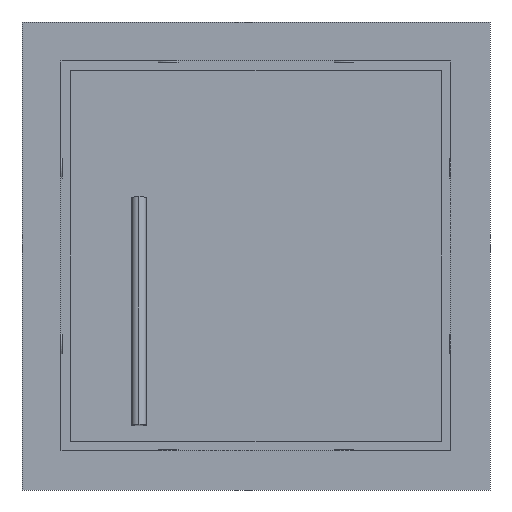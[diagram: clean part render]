
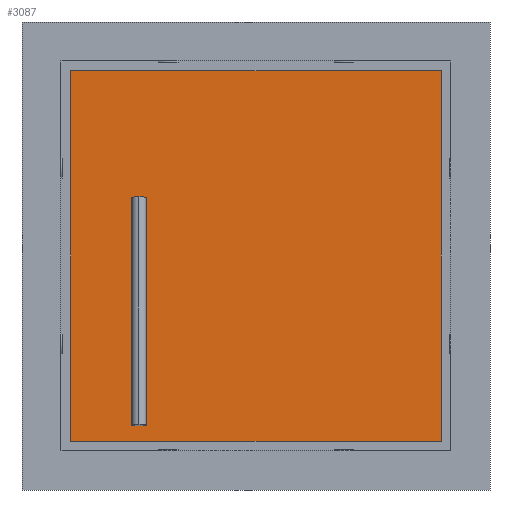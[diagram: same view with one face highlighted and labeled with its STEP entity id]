
A CAD part, front view. The second image highlights one B-rep face of the part: STEP entity #3087.
In plain terms, the highlighted planar face has unit normal (0, -1, 0).
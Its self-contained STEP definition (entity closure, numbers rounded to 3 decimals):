
#2818=DIRECTION('',(0.,0.,-1.));
#2819=VECTOR('',#2818,648.);
#2820=CARTESIAN_POINT('',(324.,79.,315.));
#2821=LINE('',#2820,#2819);
#2826=DIRECTION('',(-1.,0.,0.));
#2827=VECTOR('',#2826,648.);
#2828=CARTESIAN_POINT('',(324.,79.,-333.));
#2829=LINE('',#2828,#2827);
#2834=DIRECTION('',(0.,0.,1.));
#2835=VECTOR('',#2834,648.);
#2836=CARTESIAN_POINT('',(-324.,79.,-333.));
#2837=LINE('',#2836,#2835);
#2842=DIRECTION('',(1.,0.,0.));
#2843=VECTOR('',#2842,648.);
#2844=CARTESIAN_POINT('',(-324.,79.,315.));
#2845=LINE('',#2844,#2843);
#2917=CARTESIAN_POINT('',(324.,79.,315.));
#2918=CARTESIAN_POINT('',(324.,79.,-333.));
#2919=VERTEX_POINT('',#2917);
#2920=VERTEX_POINT('',#2918);
#2921=CARTESIAN_POINT('',(-324.,79.,-333.));
#2922=VERTEX_POINT('',#2921);
#2923=CARTESIAN_POINT('',(-324.,79.,315.));
#2924=VERTEX_POINT('',#2923);
#3073=CARTESIAN_POINT('',(0.,79.,0.));
#3074=DIRECTION('',(0.,1.,0.));
#3075=DIRECTION('',(0.,0.,-1.));
#3076=AXIS2_PLACEMENT_3D('',#3073,#3074,#3075);
#3077=PLANE('',#3076);
#3078=ORIENTED_EDGE('',*,*,#3063,.T.);
#3080=ORIENTED_EDGE('',*,*,#3079,.T.);
#3082=ORIENTED_EDGE('',*,*,#3081,.T.);
#3084=ORIENTED_EDGE('',*,*,#3083,.T.);
#3085=EDGE_LOOP('',(#3078,#3080,#3082,#3084));
#3086=FACE_OUTER_BOUND('',#3085,.F.);
#3063=EDGE_CURVE('',#2919,#2920,#2821,.T.);
#3079=EDGE_CURVE('',#2920,#2922,#2829,.T.);
#3081=EDGE_CURVE('',#2922,#2924,#2837,.T.);
#3083=EDGE_CURVE('',#2924,#2919,#2845,.T.);
#3087=ADVANCED_FACE('',(#3086),#3077,.F.);
